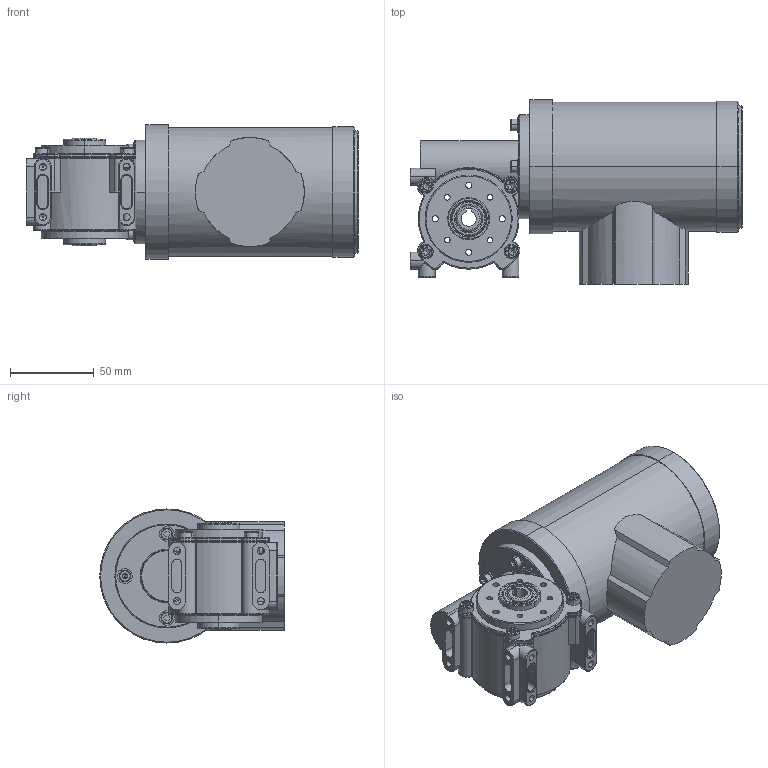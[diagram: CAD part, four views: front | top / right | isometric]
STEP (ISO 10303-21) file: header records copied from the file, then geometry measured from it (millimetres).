
FILE_DESCRIPTION (( 'STEP AP214' ), '1' );
FILE_NAME ('SN18H_90W_3000Upm_B.STEP', '2021-03-17T08:46:18', ( '' ), ( '' ), 'SwSTEP 2.0', 'SolidWorks 2019', '' );
FILE_SCHEMA (( 'AUTOMOTIVE_DESIGN' ));
Length unit declared in the file: millimetre
Products named in the file (1): SN18H_90W_3000Upm_B
Bounding box: 198 x 110 x 80 mm (x, y, z)
Surface area: 82346 mm2 (no closed solid volume)
Topology: 0 solids, 17 shells, 549 faces, 1511 edges, 980 vertices
Faces by surface type: cylinder 286, torus 124, plane 95, cone 34, sphere 6, bspline 4
Entity records: 26179 total; most frequent: CARTESIAN_POINT 6012, DIRECTION 3190, ORIENTED_EDGE 2763, EDGE_CURVE 1495, AXIS2_PLACEMENT_3D 1354, VERTEX_POINT 977, CIRCLE 808, EDGE_LOOP 630
